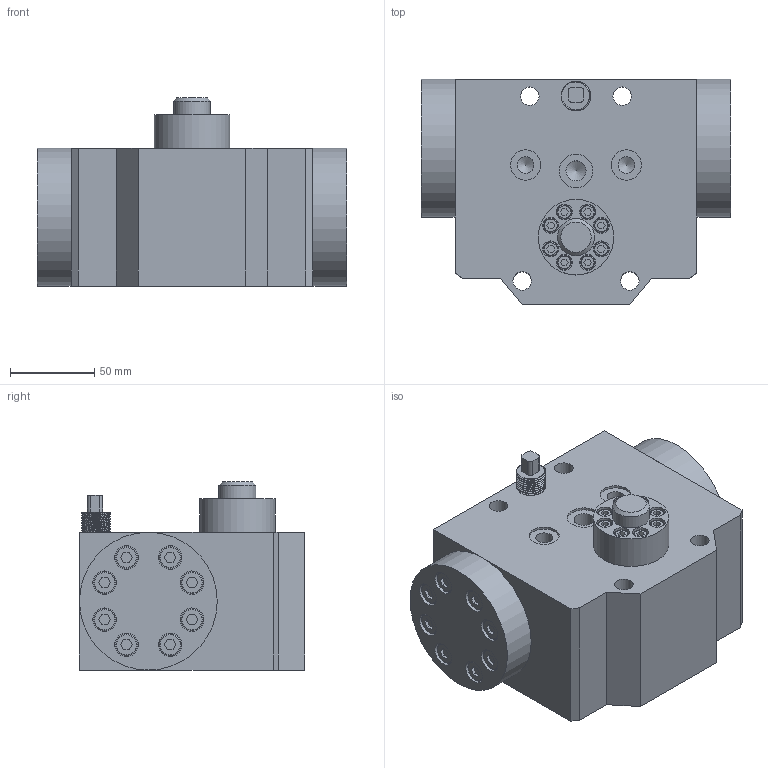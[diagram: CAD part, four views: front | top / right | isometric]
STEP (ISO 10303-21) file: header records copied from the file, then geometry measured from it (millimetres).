
FILE_DESCRIPTION(/* description */ (''),/* implementation_level */ '2;1');
FILE_NAME(/* name */ '11-2.prt.stp',/* time_stamp */ '2023-05-03T14:17:24+08:00',/* author */ (''),/* organization */ (''),/* preprocessor_version */ 'ST-DEVELOPER v16.7',/* originating_system */ 'SIEMENS PLM Software NX 12.0',/* authorisation */ '');
FILE_SCHEMA (('AUTOMOTIVE_DESIGN { 1 0 10303 214 3 1 1 1 }'));
Length unit declared in the file: millimetre
Products named in the file (1): 11-2
Bounding box: 184 x 134 x 112 mm (x, y, z)
Volume: 1692209.5 mm3; surface area: 190920.7 mm2
Topology: 31 solids, 31 shells, 658 faces, 1612 edges, 1067 vertices
Faces by surface type: plane 391, cylinder 189, cone 52, torus 24, bspline 2
Full cylindrical faces by diameter (mm): 4.2 x8, 5 x8, 5.5 x8, 6.8 x16, 8 x16, 8.5 x8, 9 x16, 9.5 x8, 10 x2, 11 x4, 12 x1, 13 x16, 14 x16, 18 x2, 20 x1, 22 x2, 45 x1, 82 x2
Entity records: 20098 total; most frequent: CARTESIAN_POINT 5440, DIRECTION 3030, ORIENTED_EDGE 2498, EDGE_CURVE 1249, AXIS2_PLACEMENT_3D 1132, EDGE_LOOP 1050, VERTEX_POINT 966, LINE 766
